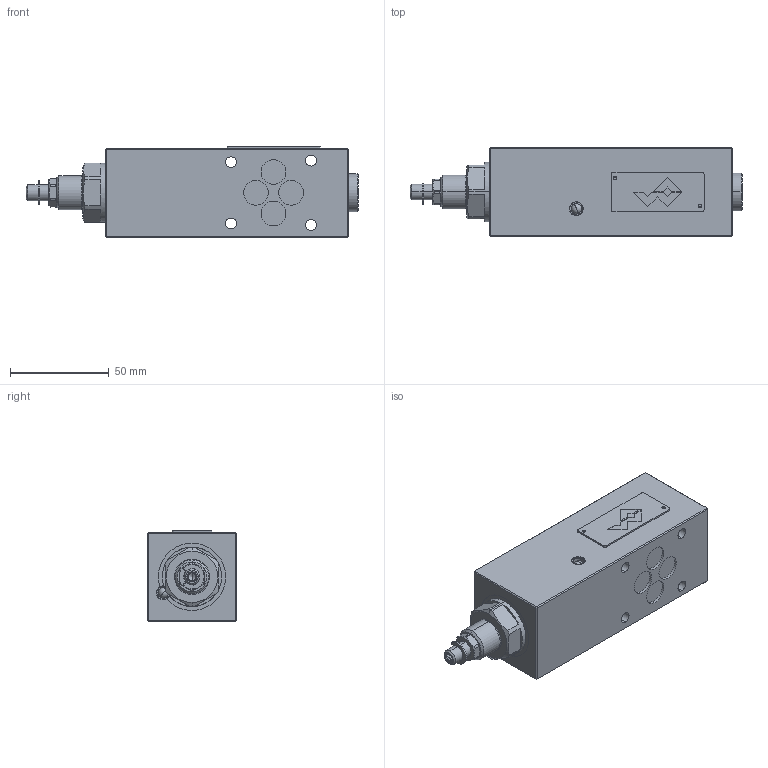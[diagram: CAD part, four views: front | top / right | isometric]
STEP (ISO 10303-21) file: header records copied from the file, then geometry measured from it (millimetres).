
FILE_DESCRIPTION (( 'STEP AP214' ), '1' );
FILE_NAME ('MVSFA01-P-A.STEP', '2024-02-22T09:27:09', ( '' ), ( '' ), 'SwSTEP 2.0', 'SolidWorks 2022', '' );
FILE_SCHEMA (( 'AUTOMOTIVE_DESIGN' ));
Length unit declared in the file: millimetre
Products named in the file (1): MVSFA01-P-A
Bounding box: 167.8 x 45 x 45.8 mm (x, y, z)
Volume: 256365.1 mm3; surface area: 32651.3 mm2
Topology: 1 solids, 2 shells, 304 faces, 752 edges, 478 vertices
Faces by surface type: plane 159, cylinder 89, cone 36, sphere 8, torus 6, bspline 6
Entity records: 12788 total; most frequent: CARTESIAN_POINT 2163, DIRECTION 1584, ORIENTED_EDGE 1496, EDGE_CURVE 748, AXIS2_PLACEMENT_3D 591, VERTEX_POINT 478, VECTOR 402, LINE 402
